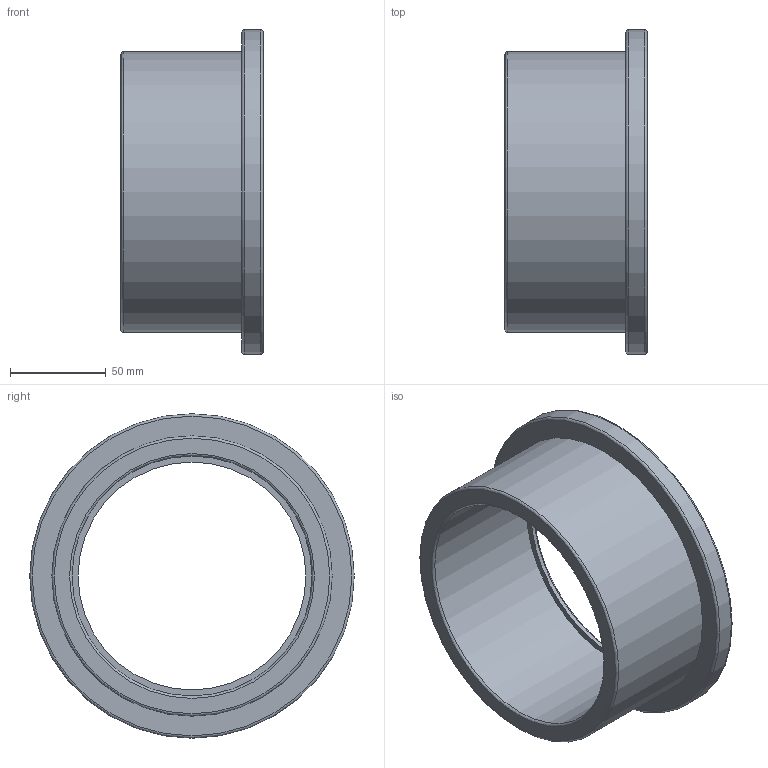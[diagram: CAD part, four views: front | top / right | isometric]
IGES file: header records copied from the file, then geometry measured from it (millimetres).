
Global section: file name: 055200125.ipt; native system: Autodesk Inventor 2015; preprocessor: unknown; author: KIM; date: 20171207.165751; units: millimetre
Bounding box: 74 x 169 x 169 mm (x, y, z)
Volume: 389430.1 mm3; surface area: 86168.4 mm2
Topology: 1 solids, 1 shells, 28 faces, 71 edges, 52 vertices
Faces by surface type: revolution 12, plane 9, bspline 5, cylinder 2
Full cylindrical faces by diameter (mm): 146 x1, 169 x1
